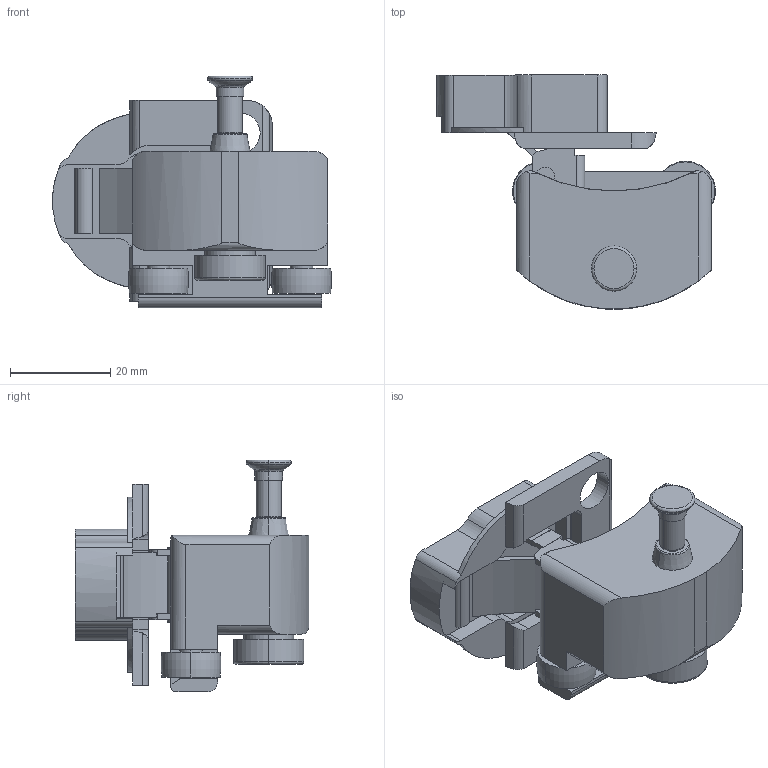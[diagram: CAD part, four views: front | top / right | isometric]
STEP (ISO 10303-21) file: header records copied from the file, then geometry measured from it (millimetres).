
FILE_DESCRIPTION( ( '' ), '1' );
FILE_NAME( 'D:/temp/hettich_stp/hettich/4_folding_sliding/4.4_folding_door/x_kg_wing_line_170_26/70956.stp', '2013-02-26T10:19:59', ( '' ), ( '' ), ' ', ' ', ' ' );
FILE_SCHEMA( ( 'automotive_design' ) );
Length unit declared in the file: millimetre
Products named in the file (1): 1
Bounding box: 55.57 x 46.6 x 46.2 mm (x, y, z)
Volume: 22247.4 mm3; surface area: 16099.9 mm2
Topology: 1 solids, 1 shells, 328 faces, 955 edges, 629 vertices
Faces by surface type: plane 216, cylinder 90, torus 20, cone 2
Entity records: 21640 total; most frequent: CARTESIAN_POINT 2137, STYLED_ITEM 1913, PRESENTATION_STYLE_ASSIGNMENT 1913, COLOUR_RGB 1913, ORIENTED_EDGE 1910, DIRECTION 1834, EDGE_CURVE 955, CURVE_STYLE 955
